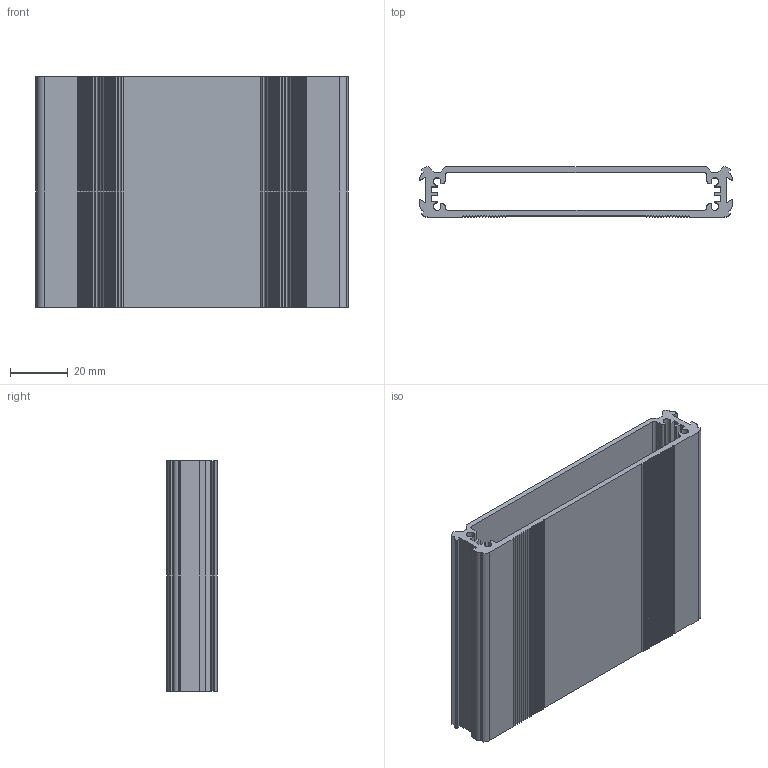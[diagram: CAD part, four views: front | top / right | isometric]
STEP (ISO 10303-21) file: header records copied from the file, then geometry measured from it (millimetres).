
FILE_DESCRIPTION (( 'STEP AP214' ), '1' );
FILE_NAME ('B2S-080 Enclosure.STEP', '2019-09-17T21:06:55', ( 'Rudy' ), ( '' ), 'SwSTEP 2.0', 'SolidWorks 2014', '' );
FILE_SCHEMA (( 'AUTOMOTIVE_DESIGN' ));
Length unit declared in the file: millimetre
Products named in the file (1): B2S-080 Enclosure
Bounding box: 108.5 x 17.55 x 80 mm (x, y, z)
Volume: 43210.1 mm3; surface area: 43391.2 mm2
Topology: 1 solids, 1 shells, 265 faces, 789 edges, 526 vertices
Faces by surface type: cylinder 145, plane 120
Entity records: 9031 total; most frequent: DIRECTION 1611, CARTESIAN_POINT 1581, ORIENTED_EDGE 1578, EDGE_CURVE 789, AXIS2_PLACEMENT_3D 556, VERTEX_POINT 526, VECTOR 499, LINE 499
